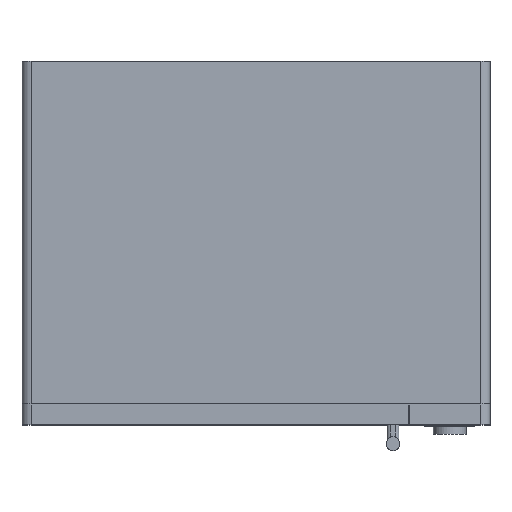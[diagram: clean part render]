
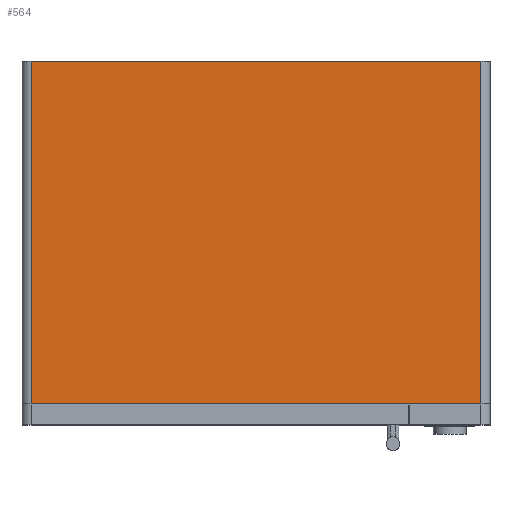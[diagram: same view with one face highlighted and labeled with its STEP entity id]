
A CAD part, top view. The second image highlights one B-rep face of the part: STEP entity #564.
In plain terms, the highlighted planar face has unit normal (0, 0, 1).
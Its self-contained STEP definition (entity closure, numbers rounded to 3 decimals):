
#564=ADVANCED_FACE('',(#861),#721,.T.);
#721=PLANE('',#3235);
#861=FACE_OUTER_BOUND('',#1039,.T.);
#1039=EDGE_LOOP('',(#1555,#1556,#1557,#1558));
#1555=ORIENTED_EDGE('',*,*,#2380,.T.);
#1556=ORIENTED_EDGE('',*,*,#2383,.T.);
#1557=ORIENTED_EDGE('',*,*,#2370,.T.);
#1558=ORIENTED_EDGE('',*,*,#2384,.T.);
#2042=VERTEX_POINT('',#4641);
#2043=VERTEX_POINT('',#4642);
#2049=VERTEX_POINT('',#4659);
#2050=VERTEX_POINT('',#4661);
#2370=EDGE_CURVE('',#2042,#2043,#2702,.T.);
#2380=EDGE_CURVE('',#2050,#2049,#2708,.T.);
#2383=EDGE_CURVE('',#2049,#2042,#2710,.T.);
#2384=EDGE_CURVE('',#2043,#2050,#2711,.T.);
#2702=LINE('',#4640,#2965);
#2708=LINE('',#4660,#2971);
#2710=LINE('',#4665,#2973);
#2711=LINE('',#4666,#2974);
#2965=VECTOR('',#3780,1.);
#2971=VECTOR('',#3798,1.);
#2973=VECTOR('',#3804,1.);
#2974=VECTOR('',#3805,1.);
#3235=AXIS2_PLACEMENT_3D('',#4667,#3806,#3807);
#3780=DIRECTION('',(1.,0.,0.));
#3798=DIRECTION('',(-1.,0.,0.));
#3804=DIRECTION('',(0.,-1.,0.));
#3805=DIRECTION('',(0.,1.,0.));
#3806=DIRECTION('',(0.,0.,1.));
#3807=DIRECTION('',(1.,0.,0.));
#4640=CARTESIAN_POINT('',(-384.103,-271.286,304.));
#4641=CARTESIAN_POINT('',(-374.103,-271.286,304.));
#4642=CARTESIAN_POINT('',(119.897,-271.286,304.));
#4659=CARTESIAN_POINT('',(-374.103,104.714,304.));
#4660=CARTESIAN_POINT('',(129.897,104.714,304.));
#4661=CARTESIAN_POINT('',(119.897,104.714,304.));
#4665=CARTESIAN_POINT('',(-374.103,-271.286,304.));
#4666=CARTESIAN_POINT('',(119.897,104.714,304.));
#4667=CARTESIAN_POINT('',(-127.103,-83.286,304.));
